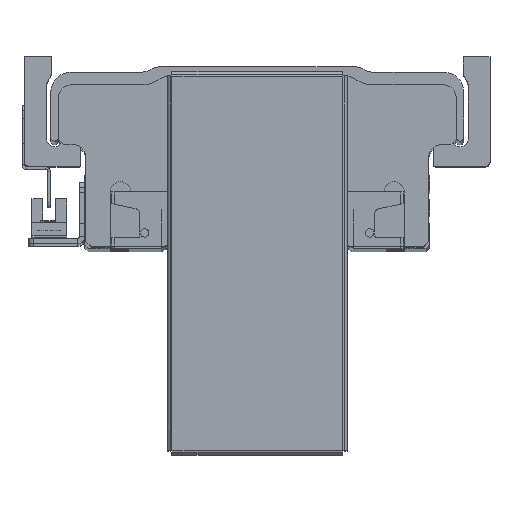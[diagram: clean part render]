
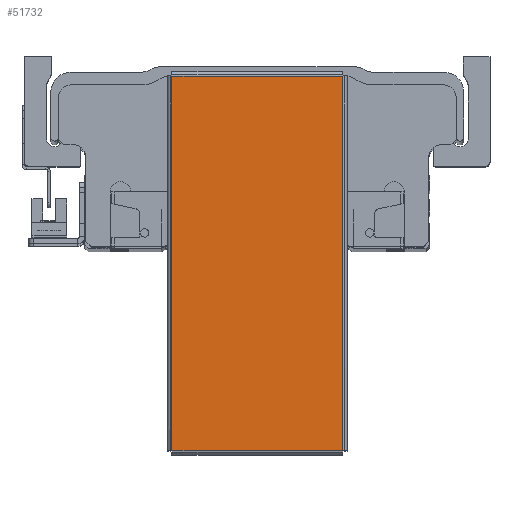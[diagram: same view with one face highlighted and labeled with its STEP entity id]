
A CAD part, top view. The second image highlights one B-rep face of the part: STEP entity #51732.
In plain terms, the highlighted planar face has unit normal (0, 0, 1) as drawn and (0, -1, 0) by its records, which use the part's own axes.
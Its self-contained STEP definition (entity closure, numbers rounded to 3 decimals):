
#634 = AXIS2_PLACEMENT_3D ( 'NONE', #4236, #4225, #4240 ) ;
#1242 = CARTESIAN_POINT ( 'NONE',  ( -73.293, -1., -33.363 ) ) ;
#1276 = DIRECTION ( 'NONE',  ( 1., 0., 0. ) ) ;
#1399 = DIRECTION ( 'NONE',  ( 0., 0., -1. ) ) ;
#1416 = CARTESIAN_POINT ( 'NONE',  ( -73.263, -1., 33.393 ) ) ;
#1591 = DIRECTION ( 'NONE',  ( -1., 0., 0. ) ) ;
#1593 = CARTESIAN_POINT ( 'NONE',  ( 73.263, -1., -33.393 ) ) ;
#1596 = CARTESIAN_POINT ( 'NONE',  ( 73.293, -1., 33.363 ) ) ;
#1615 = DIRECTION ( 'NONE',  ( 0., 0., 1. ) ) ;
#2006 = CARTESIAN_POINT ( 'NONE',  ( 73.263, -1., -33.363 ) ) ;
#2066 = CARTESIAN_POINT ( 'NONE',  ( -73.263, -1., 33.363 ) ) ;
#2076 = CARTESIAN_POINT ( 'NONE',  ( 73.263, -1., 33.363 ) ) ;
#4209 = PLANE ( 'NONE',  #634 ) ;
#4225 = DIRECTION ( 'NONE',  ( 0., 1., 0. ) ) ;
#4236 = CARTESIAN_POINT ( 'NONE',  ( 0., -1., 0. ) ) ;
#4240 = DIRECTION ( 'NONE',  ( 0., 0., 1. ) ) ;
#5232 = FACE_OUTER_BOUND ( 'NONE', #8761, .T. ) ;
#8761 = EDGE_LOOP ( 'NONE', ( #14421, #14359, #14379, #14296 ) ) ;
#14296 = ORIENTED_EDGE ( 'NONE', *, *, #30953, .T. ) ;
#14359 = ORIENTED_EDGE ( 'NONE', *, *, #30883, .T. ) ;
#14379 = ORIENTED_EDGE ( 'NONE', *, *, #30838, .T. ) ;
#14421 = ORIENTED_EDGE ( 'NONE', *, *, #30955, .T. ) ;
#15962 = CARTESIAN_POINT ( 'NONE',  ( -73.263, -1., -33.363 ) ) ;
#30838 = EDGE_CURVE ( 'NONE', #50443, #50560, #39900, .T. ) ;
#30883 = EDGE_CURVE ( 'NONE', #50543, #50443, #39980, .T. ) ;
#30953 = EDGE_CURVE ( 'NONE', #50560, #50539, #40126, .T. ) ;
#30955 = EDGE_CURVE ( 'NONE', #50539, #50543, #40145, .T. ) ;
#39900 = LINE ( 'NONE', #1242, #39931 ) ;
#39931 = VECTOR ( 'NONE', #1276, 1000. ) ;
#39963 = VECTOR ( 'NONE', #1399, 1000. ) ;
#39980 = LINE ( 'NONE', #1416, #39963 ) ;
#40081 = VECTOR ( 'NONE', #1615, 1000. ) ;
#40126 = LINE ( 'NONE', #1593, #40081 ) ;
#40138 = VECTOR ( 'NONE', #1591, 1000. ) ;
#40145 = LINE ( 'NONE', #1596, #40138 ) ;
#50443 = VERTEX_POINT ( 'NONE', #15962 ) ;
#50539 = VERTEX_POINT ( 'NONE', #2076 ) ;
#50543 = VERTEX_POINT ( 'NONE', #2066 ) ;
#50560 = VERTEX_POINT ( 'NONE', #2006 ) ;
#51732 = ADVANCED_FACE ( 'NONE', ( #5232 ), #4209, .F. ) ;
